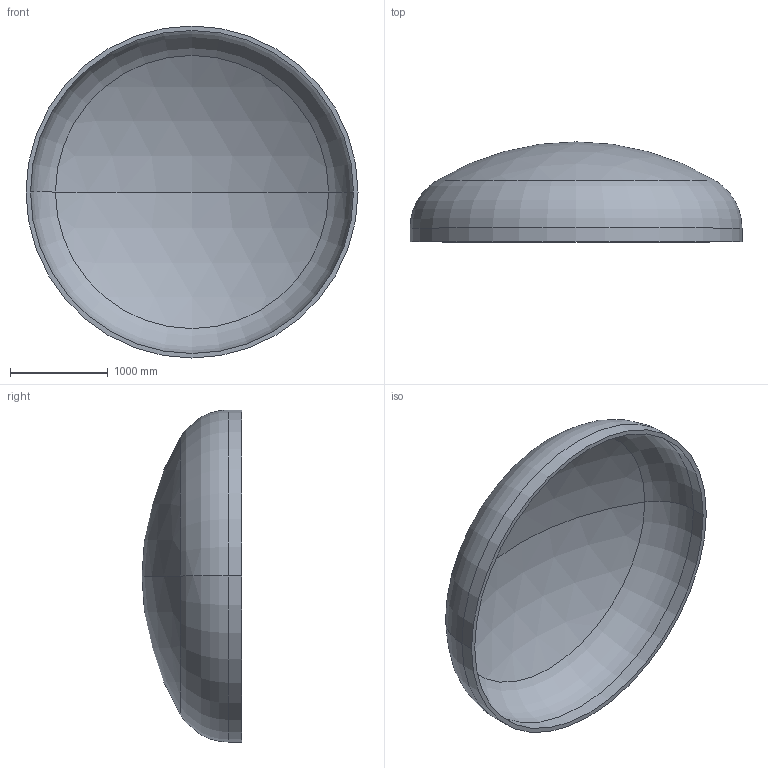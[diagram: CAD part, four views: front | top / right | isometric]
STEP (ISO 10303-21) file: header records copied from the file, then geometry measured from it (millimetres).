
FILE_DESCRIPTION (( 'STEP AP203' ), '1' );
FILE_NAME ('DIN 28013 Korbbogenform_-_Boden DIN 28013 - 3400 x 140 - I - s=46.step', '2016-07-01T19:33:03', ( '' ), ( '' ), 'SwSTEP 2.0', 'SolidWorks 2013', '' );
FILE_SCHEMA (( 'CONFIG_CONTROL_DESIGN' ));
Length unit declared in the file: millimetre
Products named in the file (1): DIN 28013 Korbbogenform_-_Boden DIN 28013 - 3400 x 140 - I - s=46
Bounding box: 3400 x 1023.61 x 3400 mm (x, y, z)
Volume: 636337100.8 mm3; surface area: 28155950 mm2
Topology: 1 solids, 1 shells, 13 faces, 24 edges, 14 vertices
Faces by surface type: torus 4, cylinder 4, sphere 4, plane 1
Entity records: 407 total; most frequent: DIRECTION 72, CARTESIAN_POINT 52, ORIENTED_EDGE 48, AXIS2_PLACEMENT_3D 34, EDGE_CURVE 24, CIRCLE 20, EDGE_LOOP 14, VERTEX_POINT 14
